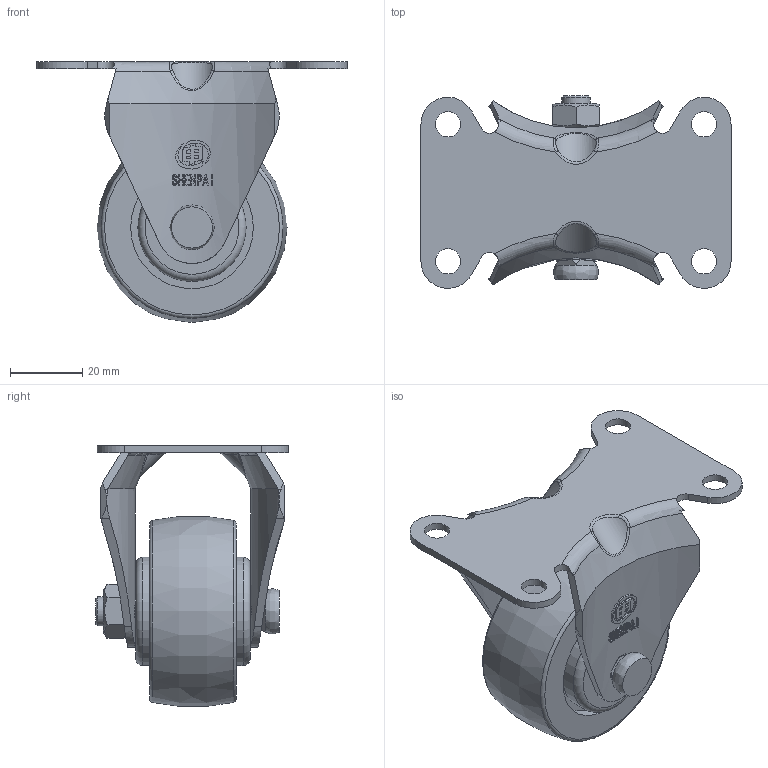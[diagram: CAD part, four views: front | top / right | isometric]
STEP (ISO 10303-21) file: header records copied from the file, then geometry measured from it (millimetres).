
FILE_DESCRIPTION(/* description */ (''),/* implementation_level */ '2;1');
FILE_NAME(/* name */ '15A03_2_F.stp',/* time_stamp */ '2022-10-06T14:01:31+08:00',/* author */ (''),/* organization */ (''),/* preprocessor_version */ 'ST-DEVELOPER v14',/* originating_system */ 'SIEMENS PLM Software NX 8.0',/* authorisation */ '');
FILE_SCHEMA (('AUTOMOTIVE_DESIGN { 1 0 10303 214 3 1 1 1 }'));
Length unit declared in the file: millimetre
Products named in the file (1): 15A03_2_F
Bounding box: 86 x 53.48 x 72.36 mm (x, y, z)
Volume: 64301.7 mm3; surface area: 29489.9 mm2
Topology: 1 solids, 1 shells, 347 faces, 923 edges, 599 vertices
Faces by surface type: plane 204, cylinder 94, bspline 20, torus 14, cone 11, sphere 4
Full cylindrical faces by diameter (mm): 7 x4, 8 x3, 8.2 x2, 8.3 x2, 12 x2, 28 x2, 29 x2, 30 x2, 34 x2
Entity records: 11900 total; most frequent: CARTESIAN_POINT 3373, DIRECTION 1798, ORIENTED_EDGE 1760, EDGE_CURVE 880, AXIS2_PLACEMENT_3D 735, VERTEX_POINT 592, EDGE_LOOP 426, ADVANCED_FACE 347
